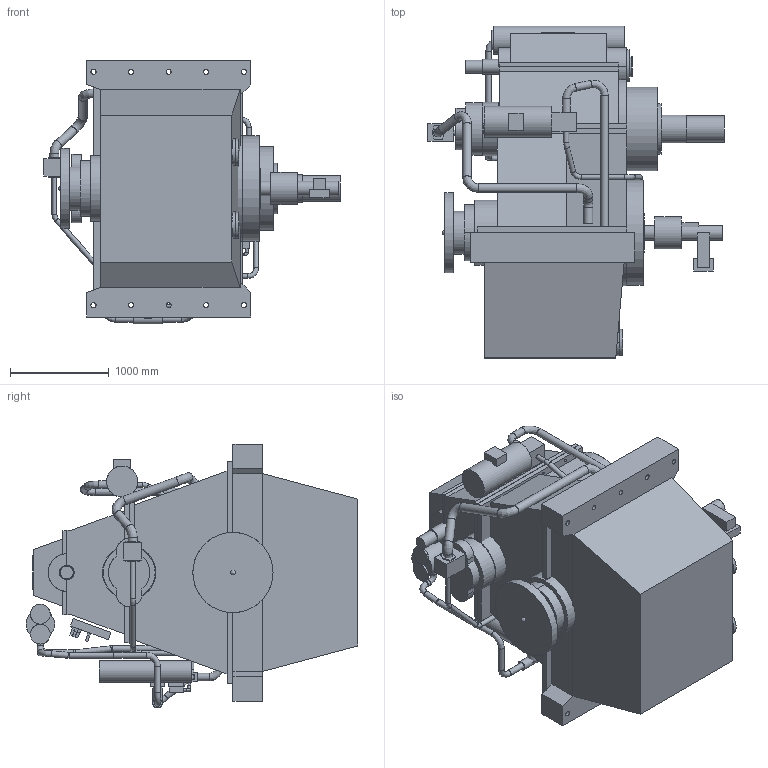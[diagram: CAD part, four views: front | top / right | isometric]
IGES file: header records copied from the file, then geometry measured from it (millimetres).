
Global section: file name: Y:\Project\Active\Wartzilla\Gearboxes\Output_IGES\Universal format 31jan08\SV_105_P63\SV105_P63.igs; native system: NX V4.0; preprocessor: UGS NX IGES V4.0; date: 20080212.203037; units: millimetre
Bounding box: 2997 x 3358.24 x 2670.5 mm (x, y, z)
Surface area: 84848822.2 mm2 (no closed solid volume)
Topology: 0 solids, 0 shells, 534 faces, 3996 edges, 4286 vertices
Faces by surface type: extrusion 375, revolution 124, bspline 35
